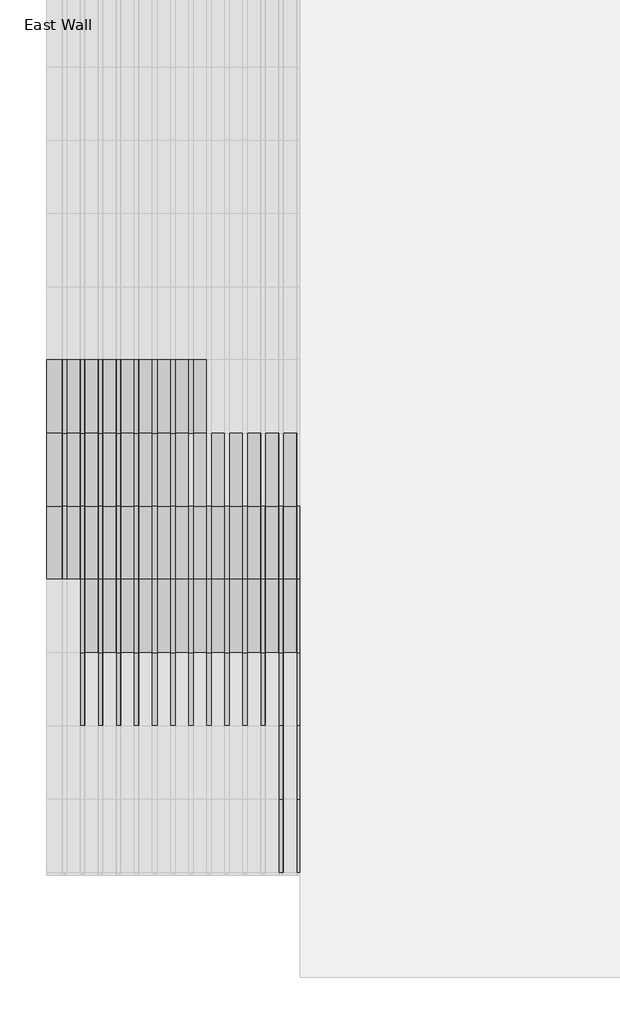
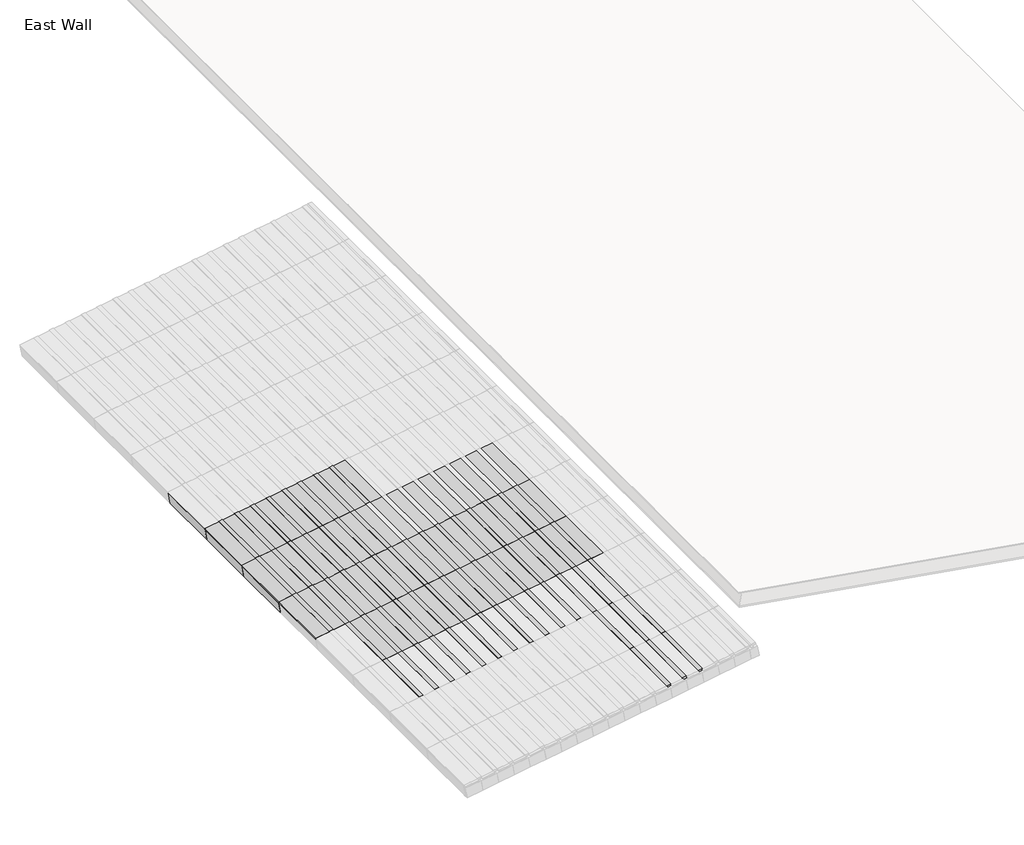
# One storey, part 2 of 5: 67 members, 55 plates.
"""IFC4 building model written with IfcOpenShell, lengths in millimetres."""

from ifc_helpers import new_model, si_unit, origin, place, context, project, spatial, transform, mapped, element, save
from components import rectangular_mullion_fascia_9a07afea, rectangular_mullion_wood_slats_095afc73, system_panel_empty_9ec88690, system_panel_empty_25c6223c

model = new_model("IFC4")

# Units and contexts
model_context = context("Model", 3, world=origin())
ifc_project = project(units=[si_unit("LENGTHUNIT", "METRE", prefix="MILLI")], contexts=[model_context])

# Site, building, storey
site = spatial("IfcSite", under=ifc_project)
building = spatial("IfcBuilding", under=site)
storey = spatial("IfcBuildingStorey", under=building, Name="East Wall", Elevation=3657.6)

# Members
placement = place(None, origin())
rectangular_mullion_fascia_shape = rectangular_mullion_fascia_9a07afea(model_context)
element("IfcMember", 1, ObjectType="Rectangular Mullion : Fascia", at=placement, inside=storey, context=model_context, shape_type="MappedRepresentation", body=[
    mapped(rectangular_mullion_fascia_shape, transform((9705.6989802, 7725.4499281, 3044.5915776), x_axis=(-0.9863939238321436, 0.0, -0.16439898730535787), y_axis=(0.16439898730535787, 0.0, -0.9863939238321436), z_axis=(0.0, -1.0, 0.0))),
])
element("IfcMember", 2, ObjectType="Rectangular Mullion : Fascia", at=placement, inside=storey, context=model_context, shape_type="MappedRepresentation", body=[
    mapped(rectangular_mullion_fascia_shape, transform((9705.6989802, 7115.8499281, 3044.5915776), x_axis=(-0.9863939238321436, 0.0, -0.16439898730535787), y_axis=(0.16439898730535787, 0.0, -0.9863939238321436), z_axis=(0.0, -1.0, 0.0))),
])
element("IfcMember", 3, ObjectType="Rectangular Mullion : Fascia", at=placement, inside=storey, context=model_context, shape_type="MappedRepresentation", body=[
    mapped(rectangular_mullion_fascia_shape, transform((9705.6989802, 6506.2499281, 3044.5915776), x_axis=(-0.9863939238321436, 0.0, -0.16439898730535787), y_axis=(0.16439898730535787, 0.0, -0.9863939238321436), z_axis=(0.0, -1.0, 0.0))),
])
rectangular_mullion_wood_slats_shape = rectangular_mullion_wood_slats_095afc73(model_context)
element("IfcMember", 4, ObjectType="Rectangular Mullion : Wood Slats", at=placement, inside=storey, context=model_context, shape_type="MappedRepresentation", body=[
    mapped(rectangular_mullion_wood_slats_shape, transform((9856.0254142, 7725.4499281, 3069.6459833), x_axis=(0.9863939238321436, 0.0, 0.16439898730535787), y_axis=(0.16439898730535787, 0.0, -0.9863939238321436), z_axis=(0.0, 1.0, 0.0))),
])
element("IfcMember", 5, ObjectType="Rectangular Mullion : Wood Slats", at=placement, inside=storey, context=model_context, shape_type="MappedRepresentation", body=[
    mapped(rectangular_mullion_wood_slats_shape, transform((9856.0254142, 7115.8499281, 3069.6459833), x_axis=(0.9863939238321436, 0.0, 0.16439898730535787), y_axis=(0.16439898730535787, 0.0, -0.9863939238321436), z_axis=(0.0, 1.0, 0.0))),
])
element("IfcMember", 6, ObjectType="Rectangular Mullion : Wood Slats", at=placement, inside=storey, context=model_context, shape_type="MappedRepresentation", body=[
    mapped(rectangular_mullion_wood_slats_shape, transform((9856.0254142, 6506.2499281, 3069.6459833), x_axis=(0.9863939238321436, 0.0, 0.16439898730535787), y_axis=(0.16439898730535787, 0.0, -0.9863939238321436), z_axis=(0.0, 1.0, 0.0))),
])
element("IfcMember", 7, ObjectType="Rectangular Mullion : Wood Slats", at=placement, inside=storey, context=model_context, shape_type="MappedRepresentation", body=[
    mapped(rectangular_mullion_wood_slats_shape, transform((10006.3518482, 7725.4499281, 3094.700389), x_axis=(0.9863939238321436, 0.0, 0.16439898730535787), y_axis=(0.16439898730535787, 0.0, -0.9863939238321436), z_axis=(0.0, 1.0, 0.0))),
])
element("IfcMember", 8, ObjectType="Rectangular Mullion : Wood Slats", at=placement, inside=storey, context=model_context, shape_type="MappedRepresentation", body=[
    mapped(rectangular_mullion_wood_slats_shape, transform((10006.3518482, 7115.8499281, 3094.700389), x_axis=(0.9863939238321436, 0.0, 0.16439898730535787), y_axis=(0.16439898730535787, 0.0, -0.9863939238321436), z_axis=(0.0, 1.0, 0.0))),
])
element("IfcMember", 9, ObjectType="Rectangular Mullion : Wood Slats", at=placement, inside=storey, context=model_context, shape_type="MappedRepresentation", body=[
    mapped(rectangular_mullion_wood_slats_shape, transform((10006.3518482, 6506.2499281, 3094.700389), x_axis=(0.9863939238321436, 0.0, 0.16439898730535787), y_axis=(0.16439898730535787, 0.0, -0.9863939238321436), z_axis=(0.0, 1.0, 0.0))),
])
element("IfcMember", 10, ObjectType="Rectangular Mullion : Wood Slats", at=placement, inside=storey, context=model_context, shape_type="MappedRepresentation", body=[
    mapped(rectangular_mullion_wood_slats_shape, transform((10006.3518482, 5896.6499281, 3094.700389), x_axis=(0.9863939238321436, 0.0, 0.16439898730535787), y_axis=(0.16439898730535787, 0.0, -0.9863939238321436), z_axis=(0.0, 1.0, 0.0))),
])
element("IfcMember", 11, ObjectType="Rectangular Mullion : Wood Slats", at=placement, inside=storey, context=model_context, shape_type="MappedRepresentation", body=[
    mapped(rectangular_mullion_wood_slats_shape, transform((10006.3518482, 5287.0499281, 3094.700389), x_axis=(0.9863939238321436, 0.0, 0.16439898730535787), y_axis=(0.16439898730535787, 0.0, -0.9863939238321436), z_axis=(0.0, 1.0, 0.0))),
])
element("IfcMember", 12, ObjectType="Rectangular Mullion : Wood Slats", at=placement, inside=storey, context=model_context, shape_type="MappedRepresentation", body=[
    mapped(rectangular_mullion_wood_slats_shape, transform((10156.6782822, 7725.4499281, 3119.7547946), x_axis=(0.9863939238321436, 0.0, 0.16439898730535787), y_axis=(0.16439898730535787, 0.0, -0.9863939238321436), z_axis=(0.0, 1.0, 0.0))),
])
element("IfcMember", 13, ObjectType="Rectangular Mullion : Wood Slats", at=placement, inside=storey, context=model_context, shape_type="MappedRepresentation", body=[
    mapped(rectangular_mullion_wood_slats_shape, transform((10156.6782822, 7115.8499281, 3119.7547946), x_axis=(0.9863939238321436, 0.0, 0.16439898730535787), y_axis=(0.16439898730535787, 0.0, -0.9863939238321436), z_axis=(0.0, 1.0, 0.0))),
])
element("IfcMember", 14, ObjectType="Rectangular Mullion : Wood Slats", at=placement, inside=storey, context=model_context, shape_type="MappedRepresentation", body=[
    mapped(rectangular_mullion_wood_slats_shape, transform((10156.6782822, 6506.2499281, 3119.7547946), x_axis=(0.9863939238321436, 0.0, 0.16439898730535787), y_axis=(0.16439898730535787, 0.0, -0.9863939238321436), z_axis=(0.0, 1.0, 0.0))),
])
element("IfcMember", 15, ObjectType="Rectangular Mullion : Wood Slats", at=placement, inside=storey, context=model_context, shape_type="MappedRepresentation", body=[
    mapped(rectangular_mullion_wood_slats_shape, transform((10156.6782822, 5896.6499281, 3119.7547946), x_axis=(0.9863939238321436, 0.0, 0.16439898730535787), y_axis=(0.16439898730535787, 0.0, -0.9863939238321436), z_axis=(0.0, 1.0, 0.0))),
])
element("IfcMember", 16, ObjectType="Rectangular Mullion : Wood Slats", at=placement, inside=storey, context=model_context, shape_type="MappedRepresentation", body=[
    mapped(rectangular_mullion_wood_slats_shape, transform((10156.6782822, 5287.0499281, 3119.7547946), x_axis=(0.9863939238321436, 0.0, 0.16439898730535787), y_axis=(0.16439898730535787, 0.0, -0.9863939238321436), z_axis=(0.0, 1.0, 0.0))),
])
element("IfcMember", 17, ObjectType="Rectangular Mullion : Wood Slats", at=placement, inside=storey, context=model_context, shape_type="MappedRepresentation", body=[
    mapped(rectangular_mullion_wood_slats_shape, transform((10307.0047162, 7725.4499281, 3144.8092003), x_axis=(0.9863939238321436, 0.0, 0.16439898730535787), y_axis=(0.16439898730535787, 0.0, -0.9863939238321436), z_axis=(0.0, 1.0, 0.0))),
])
element("IfcMember", 18, ObjectType="Rectangular Mullion : Wood Slats", at=placement, inside=storey, context=model_context, shape_type="MappedRepresentation", body=[
    mapped(rectangular_mullion_wood_slats_shape, transform((10307.0047162, 7115.8499281, 3144.8092003), x_axis=(0.9863939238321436, 0.0, 0.16439898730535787), y_axis=(0.16439898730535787, 0.0, -0.9863939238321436), z_axis=(0.0, 1.0, 0.0))),
])
element("IfcMember", 19, ObjectType="Rectangular Mullion : Wood Slats", at=placement, inside=storey, context=model_context, shape_type="MappedRepresentation", body=[
    mapped(rectangular_mullion_wood_slats_shape, transform((10307.0047162, 6506.2499281, 3144.8092003), x_axis=(0.9863939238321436, 0.0, 0.16439898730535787), y_axis=(0.16439898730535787, 0.0, -0.9863939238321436), z_axis=(0.0, 1.0, 0.0))),
])
element("IfcMember", 20, ObjectType="Rectangular Mullion : Wood Slats", at=placement, inside=storey, context=model_context, shape_type="MappedRepresentation", body=[
    mapped(rectangular_mullion_wood_slats_shape, transform((10307.0047162, 5896.6499281, 3144.8092003), x_axis=(0.9863939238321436, 0.0, 0.16439898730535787), y_axis=(0.16439898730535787, 0.0, -0.9863939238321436), z_axis=(0.0, 1.0, 0.0))),
])
element("IfcMember", 21, ObjectType="Rectangular Mullion : Wood Slats", at=placement, inside=storey, context=model_context, shape_type="MappedRepresentation", body=[
    mapped(rectangular_mullion_wood_slats_shape, transform((10307.0047162, 5287.0499281, 3144.8092003), x_axis=(0.9863939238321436, 0.0, 0.16439898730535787), y_axis=(0.16439898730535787, 0.0, -0.9863939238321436), z_axis=(0.0, 1.0, 0.0))),
])
element("IfcMember", 22, ObjectType="Rectangular Mullion : Wood Slats", at=placement, inside=storey, context=model_context, shape_type="MappedRepresentation", body=[
    mapped(rectangular_mullion_wood_slats_shape, transform((10457.3311502, 7725.4499281, 3169.863606), x_axis=(0.9863939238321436, 0.0, 0.16439898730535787), y_axis=(0.16439898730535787, 0.0, -0.9863939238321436), z_axis=(0.0, 1.0, 0.0))),
])
element("IfcMember", 23, ObjectType="Rectangular Mullion : Wood Slats", at=placement, inside=storey, context=model_context, shape_type="MappedRepresentation", body=[
    mapped(rectangular_mullion_wood_slats_shape, transform((10457.3311502, 7115.8499281, 3169.863606), x_axis=(0.9863939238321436, 0.0, 0.16439898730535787), y_axis=(0.16439898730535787, 0.0, -0.9863939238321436), z_axis=(0.0, 1.0, 0.0))),
])
element("IfcMember", 24, ObjectType="Rectangular Mullion : Wood Slats", at=placement, inside=storey, context=model_context, shape_type="MappedRepresentation", body=[
    mapped(rectangular_mullion_wood_slats_shape, transform((10457.3311502, 6506.2499281, 3169.863606), x_axis=(0.9863939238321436, 0.0, 0.16439898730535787), y_axis=(0.16439898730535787, 0.0, -0.9863939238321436), z_axis=(0.0, 1.0, 0.0))),
])
element("IfcMember", 25, ObjectType="Rectangular Mullion : Wood Slats", at=placement, inside=storey, context=model_context, shape_type="MappedRepresentation", body=[
    mapped(rectangular_mullion_wood_slats_shape, transform((10457.3311502, 5896.6499281, 3169.863606), x_axis=(0.9863939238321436, 0.0, 0.16439898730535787), y_axis=(0.16439898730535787, 0.0, -0.9863939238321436), z_axis=(0.0, 1.0, 0.0))),
])
element("IfcMember", 26, ObjectType="Rectangular Mullion : Wood Slats", at=placement, inside=storey, context=model_context, shape_type="MappedRepresentation", body=[
    mapped(rectangular_mullion_wood_slats_shape, transform((10457.3311502, 5287.0499281, 3169.863606), x_axis=(0.9863939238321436, 0.0, 0.16439898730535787), y_axis=(0.16439898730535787, 0.0, -0.9863939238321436), z_axis=(0.0, 1.0, 0.0))),
])
element("IfcMember", 27, ObjectType="Rectangular Mullion : Wood Slats", at=placement, inside=storey, context=model_context, shape_type="MappedRepresentation", body=[
    mapped(rectangular_mullion_wood_slats_shape, transform((10607.6575842, 7725.4499281, 3194.9180116), x_axis=(0.9863939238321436, 0.0, 0.16439898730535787), y_axis=(0.16439898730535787, 0.0, -0.9863939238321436), z_axis=(0.0, 1.0, 0.0))),
])
element("IfcMember", 28, ObjectType="Rectangular Mullion : Wood Slats", at=placement, inside=storey, context=model_context, shape_type="MappedRepresentation", body=[
    mapped(rectangular_mullion_wood_slats_shape, transform((10607.6575842, 7115.8499281, 3194.9180116), x_axis=(0.9863939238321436, 0.0, 0.16439898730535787), y_axis=(0.16439898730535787, 0.0, -0.9863939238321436), z_axis=(0.0, 1.0, 0.0))),
])
element("IfcMember", 29, ObjectType="Rectangular Mullion : Wood Slats", at=placement, inside=storey, context=model_context, shape_type="MappedRepresentation", body=[
    mapped(rectangular_mullion_wood_slats_shape, transform((10607.6575842, 6506.2499281, 3194.9180116), x_axis=(0.9863939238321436, 0.0, 0.16439898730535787), y_axis=(0.16439898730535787, 0.0, -0.9863939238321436), z_axis=(0.0, 1.0, 0.0))),
])
element("IfcMember", 30, ObjectType="Rectangular Mullion : Wood Slats", at=placement, inside=storey, context=model_context, shape_type="MappedRepresentation", body=[
    mapped(rectangular_mullion_wood_slats_shape, transform((10607.6575842, 5896.6499281, 3194.9180116), x_axis=(0.9863939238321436, 0.0, 0.16439898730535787), y_axis=(0.16439898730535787, 0.0, -0.9863939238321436), z_axis=(0.0, 1.0, 0.0))),
])
element("IfcMember", 31, ObjectType="Rectangular Mullion : Wood Slats", at=placement, inside=storey, context=model_context, shape_type="MappedRepresentation", body=[
    mapped(rectangular_mullion_wood_slats_shape, transform((10607.6575842, 5287.0499281, 3194.9180116), x_axis=(0.9863939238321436, 0.0, 0.16439898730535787), y_axis=(0.16439898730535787, 0.0, -0.9863939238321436), z_axis=(0.0, 1.0, 0.0))),
])
element("IfcMember", 32, ObjectType="Rectangular Mullion : Wood Slats", at=placement, inside=storey, context=model_context, shape_type="MappedRepresentation", body=[
    mapped(rectangular_mullion_wood_slats_shape, transform((10757.9840182, 7725.4499281, 3219.9724173), x_axis=(0.9863939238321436, 0.0, 0.16439898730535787), y_axis=(0.16439898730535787, 0.0, -0.9863939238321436), z_axis=(0.0, 1.0, 0.0))),
])
element("IfcMember", 33, ObjectType="Rectangular Mullion : Wood Slats", at=placement, inside=storey, context=model_context, shape_type="MappedRepresentation", body=[
    mapped(rectangular_mullion_wood_slats_shape, transform((10757.9840182, 7115.8499281, 3219.9724173), x_axis=(0.9863939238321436, 0.0, 0.16439898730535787), y_axis=(0.16439898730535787, 0.0, -0.9863939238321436), z_axis=(0.0, 1.0, 0.0))),
])
element("IfcMember", 34, ObjectType="Rectangular Mullion : Wood Slats", at=placement, inside=storey, context=model_context, shape_type="MappedRepresentation", body=[
    mapped(rectangular_mullion_wood_slats_shape, transform((10757.9840182, 6506.2499281, 3219.9724173), x_axis=(0.9863939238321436, 0.0, 0.16439898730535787), y_axis=(0.16439898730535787, 0.0, -0.9863939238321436), z_axis=(0.0, 1.0, 0.0))),
])
element("IfcMember", 35, ObjectType="Rectangular Mullion : Wood Slats", at=placement, inside=storey, context=model_context, shape_type="MappedRepresentation", body=[
    mapped(rectangular_mullion_wood_slats_shape, transform((10757.9840182, 5896.6499281, 3219.9724173), x_axis=(0.9863939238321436, 0.0, 0.16439898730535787), y_axis=(0.16439898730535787, 0.0, -0.9863939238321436), z_axis=(0.0, 1.0, 0.0))),
])
element("IfcMember", 36, ObjectType="Rectangular Mullion : Wood Slats", at=placement, inside=storey, context=model_context, shape_type="MappedRepresentation", body=[
    mapped(rectangular_mullion_wood_slats_shape, transform((10757.9840182, 5287.0499281, 3219.9724173), x_axis=(0.9863939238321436, 0.0, 0.16439898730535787), y_axis=(0.16439898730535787, 0.0, -0.9863939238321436), z_axis=(0.0, 1.0, 0.0))),
])
element("IfcMember", 37, ObjectType="Rectangular Mullion : Wood Slats", at=placement, inside=storey, context=model_context, shape_type="MappedRepresentation", body=[
    mapped(rectangular_mullion_wood_slats_shape, transform((10908.3104522, 7725.4499281, 3245.026823), x_axis=(0.9863939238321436, 0.0, 0.16439898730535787), y_axis=(0.16439898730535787, 0.0, -0.9863939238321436), z_axis=(0.0, 1.0, 0.0))),
])
element("IfcMember", 38, ObjectType="Rectangular Mullion : Wood Slats", at=placement, inside=storey, context=model_context, shape_type="MappedRepresentation", body=[
    mapped(rectangular_mullion_wood_slats_shape, transform((10908.3104522, 6506.2499281, 3245.026823), x_axis=(0.9863939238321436, 0.0, 0.16439898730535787), y_axis=(0.16439898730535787, 0.0, -0.9863939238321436), z_axis=(0.0, 1.0, 0.0))),
])
element("IfcMember", 39, ObjectType="Rectangular Mullion : Wood Slats", at=placement, inside=storey, context=model_context, shape_type="MappedRepresentation", body=[
    mapped(rectangular_mullion_wood_slats_shape, transform((10908.3104522, 5896.6499281, 3245.026823), x_axis=(0.9863939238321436, 0.0, 0.16439898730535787), y_axis=(0.16439898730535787, 0.0, -0.9863939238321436), z_axis=(0.0, 1.0, 0.0))),
])
element("IfcMember", 40, ObjectType="Rectangular Mullion : Wood Slats", at=placement, inside=storey, context=model_context, shape_type="MappedRepresentation", body=[
    mapped(rectangular_mullion_wood_slats_shape, transform((10908.3104522, 5287.0499281, 3245.026823), x_axis=(0.9863939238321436, 0.0, 0.16439898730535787), y_axis=(0.16439898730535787, 0.0, -0.9863939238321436), z_axis=(0.0, 1.0, 0.0))),
])
element("IfcMember", 41, ObjectType="Rectangular Mullion : Wood Slats", at=placement, inside=storey, context=model_context, shape_type="MappedRepresentation", body=[
    mapped(rectangular_mullion_wood_slats_shape, transform((11058.6368862, 6506.2499281, 3270.0812286), x_axis=(0.9863939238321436, 0.0, 0.16439898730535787), y_axis=(0.16439898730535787, 0.0, -0.9863939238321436), z_axis=(0.0, 1.0, 0.0))),
])
element("IfcMember", 42, ObjectType="Rectangular Mullion : Wood Slats", at=placement, inside=storey, context=model_context, shape_type="MappedRepresentation", body=[
    mapped(rectangular_mullion_wood_slats_shape, transform((11058.6368862, 5896.6499281, 3270.0812286), x_axis=(0.9863939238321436, 0.0, 0.16439898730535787), y_axis=(0.16439898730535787, 0.0, -0.9863939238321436), z_axis=(0.0, 1.0, 0.0))),
])
element("IfcMember", 43, ObjectType="Rectangular Mullion : Wood Slats", at=placement, inside=storey, context=model_context, shape_type="MappedRepresentation", body=[
    mapped(rectangular_mullion_wood_slats_shape, transform((11058.6368862, 5287.0499281, 3270.0812286), x_axis=(0.9863939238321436, 0.0, 0.16439898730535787), y_axis=(0.16439898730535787, 0.0, -0.9863939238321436), z_axis=(0.0, 1.0, 0.0))),
])
element("IfcMember", 44, ObjectType="Rectangular Mullion : Wood Slats", at=placement, inside=storey, context=model_context, shape_type="MappedRepresentation", body=[
    mapped(rectangular_mullion_wood_slats_shape, transform((11208.9633201, 6506.2499281, 3295.1356343), x_axis=(0.9863939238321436, 0.0, 0.16439898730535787), y_axis=(0.16439898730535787, 0.0, -0.9863939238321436), z_axis=(0.0, 1.0, 0.0))),
])
element("IfcMember", 45, ObjectType="Rectangular Mullion : Wood Slats", at=placement, inside=storey, context=model_context, shape_type="MappedRepresentation", body=[
    mapped(rectangular_mullion_wood_slats_shape, transform((11208.9633201, 5896.6499281, 3295.1356343), x_axis=(0.9863939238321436, 0.0, 0.16439898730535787), y_axis=(0.16439898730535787, 0.0, -0.9863939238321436), z_axis=(0.0, 1.0, 0.0))),
])
element("IfcMember", 46, ObjectType="Rectangular Mullion : Wood Slats", at=placement, inside=storey, context=model_context, shape_type="MappedRepresentation", body=[
    mapped(rectangular_mullion_wood_slats_shape, transform((11208.9633201, 5287.0499281, 3295.1356343), x_axis=(0.9863939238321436, 0.0, 0.16439898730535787), y_axis=(0.16439898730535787, 0.0, -0.9863939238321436), z_axis=(0.0, 1.0, 0.0))),
])
element("IfcMember", 47, ObjectType="Rectangular Mullion : Wood Slats", at=placement, inside=storey, context=model_context, shape_type="MappedRepresentation", body=[
    mapped(rectangular_mullion_wood_slats_shape, transform((11359.2897541, 6506.2499281, 3320.19004), x_axis=(0.9863939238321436, 0.0, 0.16439898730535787), y_axis=(0.16439898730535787, 0.0, -0.9863939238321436), z_axis=(0.0, 1.0, 0.0))),
])
element("IfcMember", 48, ObjectType="Rectangular Mullion : Wood Slats", at=placement, inside=storey, context=model_context, shape_type="MappedRepresentation", body=[
    mapped(rectangular_mullion_wood_slats_shape, transform((11359.2897541, 5896.6499281, 3320.19004), x_axis=(0.9863939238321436, 0.0, 0.16439898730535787), y_axis=(0.16439898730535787, 0.0, -0.9863939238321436), z_axis=(0.0, 1.0, 0.0))),
])
element("IfcMember", 49, ObjectType="Rectangular Mullion : Wood Slats", at=placement, inside=storey, context=model_context, shape_type="MappedRepresentation", body=[
    mapped(rectangular_mullion_wood_slats_shape, transform((11359.2897541, 5287.0499281, 3320.19004), x_axis=(0.9863939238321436, 0.0, 0.16439898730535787), y_axis=(0.16439898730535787, 0.0, -0.9863939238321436), z_axis=(0.0, 1.0, 0.0))),
])
element("IfcMember", 50, ObjectType="Rectangular Mullion : Wood Slats", at=placement, inside=storey, context=model_context, shape_type="MappedRepresentation", body=[
    mapped(rectangular_mullion_wood_slats_shape, transform((11509.6161881, 6506.2499281, 3345.2444456), x_axis=(0.9863939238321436, 0.0, 0.16439898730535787), y_axis=(0.16439898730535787, 0.0, -0.9863939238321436), z_axis=(0.0, 1.0, 0.0))),
])
element("IfcMember", 51, ObjectType="Rectangular Mullion : Wood Slats", at=placement, inside=storey, context=model_context, shape_type="MappedRepresentation", body=[
    mapped(rectangular_mullion_wood_slats_shape, transform((11509.6161881, 5896.6499281, 3345.2444456), x_axis=(0.9863939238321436, 0.0, 0.16439898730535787), y_axis=(0.16439898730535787, 0.0, -0.9863939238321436), z_axis=(0.0, 1.0, 0.0))),
])
element("IfcMember", 52, ObjectType="Rectangular Mullion : Wood Slats", at=placement, inside=storey, context=model_context, shape_type="MappedRepresentation", body=[
    mapped(rectangular_mullion_wood_slats_shape, transform((11509.6161881, 5287.0499281, 3345.2444456), x_axis=(0.9863939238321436, 0.0, 0.16439898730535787), y_axis=(0.16439898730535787, 0.0, -0.9863939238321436), z_axis=(0.0, 1.0, 0.0))),
])
element("IfcMember", 53, ObjectType="Rectangular Mullion : Wood Slats", at=placement, inside=storey, context=model_context, shape_type="MappedRepresentation", body=[
    mapped(rectangular_mullion_wood_slats_shape, transform((11659.9426221, 6506.2499281, 3370.2988513), x_axis=(0.9863939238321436, 0.0, 0.16439898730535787), y_axis=(0.16439898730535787, 0.0, -0.9863939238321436), z_axis=(0.0, 1.0, 0.0))),
])
element("IfcMember", 54, ObjectType="Rectangular Mullion : Wood Slats", at=placement, inside=storey, context=model_context, shape_type="MappedRepresentation", body=[
    mapped(rectangular_mullion_wood_slats_shape, transform((11659.9426221, 5896.6499281, 3370.2988513), x_axis=(0.9863939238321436, 0.0, 0.16439898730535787), y_axis=(0.16439898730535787, 0.0, -0.9863939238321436), z_axis=(0.0, 1.0, 0.0))),
])
element("IfcMember", 55, ObjectType="Rectangular Mullion : Wood Slats", at=placement, inside=storey, context=model_context, shape_type="MappedRepresentation", body=[
    mapped(rectangular_mullion_wood_slats_shape, transform((11659.9426221, 5287.0499281, 3370.2988513), x_axis=(0.9863939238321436, 0.0, 0.16439898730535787), y_axis=(0.16439898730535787, 0.0, -0.9863939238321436), z_axis=(0.0, 1.0, 0.0))),
])
element("IfcMember", 56, ObjectType="Rectangular Mullion : Wood Slats", at=placement, inside=storey, context=model_context, shape_type="MappedRepresentation", body=[
    mapped(rectangular_mullion_wood_slats_shape, transform((11659.9426221, 4677.4499281, 3370.2988513), x_axis=(0.9863939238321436, 0.0, 0.16439898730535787), y_axis=(0.16439898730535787, 0.0, -0.9863939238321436), z_axis=(0.0, 1.0, 0.0))),
])
element("IfcMember", 57, ObjectType="Rectangular Mullion : Wood Slats", at=placement, inside=storey, context=model_context, shape_type="MappedRepresentation", body=[
    mapped(rectangular_mullion_wood_slats_shape, transform((11659.9426221, 4067.8499281, 3370.2988513), x_axis=(0.9863939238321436, 0.0, 0.16439898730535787), y_axis=(0.16439898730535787, 0.0, -0.9863939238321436), z_axis=(0.0, 1.0, 0.0))),
])
element("IfcMember", 58, ObjectType="Rectangular Mullion : Wood Slats", at=placement, inside=storey, context=model_context, shape_type="MappedRepresentation", body=[
    mapped(rectangular_mullion_wood_slats_shape, transform((11810.2690561, 6506.2499281, 3395.353257), x_axis=(0.9863939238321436, 0.0, 0.16439898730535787), y_axis=(0.16439898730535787, 0.0, -0.9863939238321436), z_axis=(0.0, 1.0, 0.0))),
])
element("IfcMember", 59, ObjectType="Rectangular Mullion : Wood Slats", at=placement, inside=storey, context=model_context, shape_type="MappedRepresentation", body=[
    mapped(rectangular_mullion_wood_slats_shape, transform((11810.2690561, 5896.6499281, 3395.353257), x_axis=(0.9863939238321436, 0.0, 0.16439898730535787), y_axis=(0.16439898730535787, 0.0, -0.9863939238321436), z_axis=(0.0, 1.0, 0.0))),
])
element("IfcMember", 60, ObjectType="Rectangular Mullion : Wood Slats", at=placement, inside=storey, context=model_context, shape_type="MappedRepresentation", body=[
    mapped(rectangular_mullion_wood_slats_shape, transform((11810.2690561, 5287.0499281, 3395.353257), x_axis=(0.9863939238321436, 0.0, 0.16439898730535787), y_axis=(0.16439898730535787, 0.0, -0.9863939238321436), z_axis=(0.0, 1.0, 0.0))),
])
element("IfcMember", 61, ObjectType="Rectangular Mullion : Wood Slats", at=placement, inside=storey, context=model_context, shape_type="MappedRepresentation", body=[
    mapped(rectangular_mullion_wood_slats_shape, transform((11810.2690561, 4677.4499281, 3395.353257), x_axis=(0.9863939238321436, 0.0, 0.16439898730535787), y_axis=(0.16439898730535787, 0.0, -0.9863939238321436), z_axis=(0.0, 1.0, 0.0))),
])
element("IfcMember", 62, ObjectType="Rectangular Mullion : Wood Slats", at=placement, inside=storey, context=model_context, shape_type="MappedRepresentation", body=[
    mapped(rectangular_mullion_wood_slats_shape, transform((11810.2690561, 4067.8499281, 3395.353257), x_axis=(0.9863939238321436, 0.0, 0.16439898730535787), y_axis=(0.16439898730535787, 0.0, -0.9863939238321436), z_axis=(0.0, 1.0, 0.0))),
])
element("IfcMember", 63, ObjectType="Rectangular Mullion : Wood Slats", at=placement, inside=storey, context=model_context, shape_type="MappedRepresentation", body=[
    mapped(rectangular_mullion_wood_slats_shape, transform((11960.5954901, 6506.2499281, 3420.4076626), x_axis=(0.9863939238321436, 0.0, 0.16439898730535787), y_axis=(0.16439898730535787, 0.0, -0.9863939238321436), z_axis=(0.0, 1.0, 0.0))),
])
element("IfcMember", 64, ObjectType="Rectangular Mullion : Wood Slats", at=placement, inside=storey, context=model_context, shape_type="MappedRepresentation", body=[
    mapped(rectangular_mullion_wood_slats_shape, transform((11960.5954901, 5896.6499281, 3420.4076626), x_axis=(0.9863939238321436, 0.0, 0.16439898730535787), y_axis=(0.16439898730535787, 0.0, -0.9863939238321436), z_axis=(0.0, 1.0, 0.0))),
])
element("IfcMember", 65, ObjectType="Rectangular Mullion : Wood Slats", at=placement, inside=storey, context=model_context, shape_type="MappedRepresentation", body=[
    mapped(rectangular_mullion_wood_slats_shape, transform((11960.5954901, 5287.0499281, 3420.4076626), x_axis=(0.9863939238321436, 0.0, 0.16439898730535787), y_axis=(0.16439898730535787, 0.0, -0.9863939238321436), z_axis=(0.0, 1.0, 0.0))),
])
element("IfcMember", 66, ObjectType="Rectangular Mullion : Wood Slats", at=placement, inside=storey, context=model_context, shape_type="MappedRepresentation", body=[
    mapped(rectangular_mullion_wood_slats_shape, transform((11960.5954901, 4677.4499281, 3420.4076626), x_axis=(0.9863939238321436, 0.0, 0.16439898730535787), y_axis=(0.16439898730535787, 0.0, -0.9863939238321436), z_axis=(0.0, 1.0, 0.0))),
])
element("IfcMember", 67, ObjectType="Rectangular Mullion : Wood Slats", at=placement, inside=storey, context=model_context, shape_type="MappedRepresentation", body=[
    mapped(rectangular_mullion_wood_slats_shape, transform((11960.5954901, 4067.8499281, 3420.4076626), x_axis=(0.9863939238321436, 0.0, 0.16439898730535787), y_axis=(0.16439898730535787, 0.0, -0.9863939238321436), z_axis=(0.0, 1.0, 0.0))),
])

# Plates
system_panel_empty_shape = system_panel_empty_9ec88690(model_context)
element("IfcPlate", 68, ObjectType="System Panel : Empty", at=placement, inside=storey, context=model_context, shape_type="MappedRepresentation", body=[
    mapped(system_panel_empty_shape, transform((9874.8162185, 7420.6499281, 3072.777784), x_axis=(0.0, -1.0, 0.0), y_axis=(0.16439898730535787, 0.0, -0.9863939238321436), z_axis=(0.9863939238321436, 0.0, 0.16439898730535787))),
])
element("IfcPlate", 69, ObjectType="System Panel : Empty", at=placement, inside=storey, context=model_context, shape_type="MappedRepresentation", body=[
    mapped(system_panel_empty_shape, transform((9874.8162185, 6811.0499281, 3072.777784), x_axis=(0.0, -1.0, 0.0), y_axis=(0.16439898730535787, 0.0, -0.9863939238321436), z_axis=(0.9863939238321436, 0.0, 0.16439898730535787))),
])
element("IfcPlate", 70, ObjectType="System Panel : Empty", at=placement, inside=storey, context=model_context, shape_type="MappedRepresentation", body=[
    mapped(system_panel_empty_shape, transform((9874.8162185, 6201.4499281, 3072.777784), x_axis=(0.0, -1.0, 0.0), y_axis=(0.16439898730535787, 0.0, -0.9863939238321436), z_axis=(0.9863939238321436, 0.0, 0.16439898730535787))),
])
element("IfcPlate", 71, ObjectType="System Panel : Empty", at=placement, inside=storey, context=model_context, shape_type="MappedRepresentation", body=[
    mapped(system_panel_empty_shape, transform((10025.1426525, 7420.6499281, 3097.8321897), x_axis=(0.0, -1.0, 0.0), y_axis=(0.16439898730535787, 0.0, -0.9863939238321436), z_axis=(0.9863939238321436, 0.0, 0.16439898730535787))),
])
element("IfcPlate", 72, ObjectType="System Panel : Empty", at=placement, inside=storey, context=model_context, shape_type="MappedRepresentation", body=[
    mapped(system_panel_empty_shape, transform((10025.1426525, 6811.0499281, 3097.8321897), x_axis=(0.0, -1.0, 0.0), y_axis=(0.16439898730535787, 0.0, -0.9863939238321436), z_axis=(0.9863939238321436, 0.0, 0.16439898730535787))),
])
element("IfcPlate", 73, ObjectType="System Panel : Empty", at=placement, inside=storey, context=model_context, shape_type="MappedRepresentation", body=[
    mapped(system_panel_empty_shape, transform((10025.1426525, 6201.4499281, 3097.8321897), x_axis=(0.0, -1.0, 0.0), y_axis=(0.16439898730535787, 0.0, -0.9863939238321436), z_axis=(0.9863939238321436, 0.0, 0.16439898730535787))),
])
element("IfcPlate", 74, ObjectType="System Panel : Empty", at=placement, inside=storey, context=model_context, shape_type="MappedRepresentation", body=[
    mapped(system_panel_empty_shape, transform((10025.1426525, 5591.8499281, 3097.8321897), x_axis=(0.0, -1.0, 0.0), y_axis=(0.16439898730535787, 0.0, -0.9863939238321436), z_axis=(0.9863939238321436, 0.0, 0.16439898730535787))),
])
element("IfcPlate", 75, ObjectType="System Panel : Empty", at=placement, inside=storey, context=model_context, shape_type="MappedRepresentation", body=[
    mapped(system_panel_empty_shape, transform((10175.4690865, 7420.6499281, 3122.8865954), x_axis=(0.0, -1.0, 0.0), y_axis=(0.16439898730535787, 0.0, -0.9863939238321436), z_axis=(0.9863939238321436, 0.0, 0.16439898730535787))),
])
element("IfcPlate", 76, ObjectType="System Panel : Empty", at=placement, inside=storey, context=model_context, shape_type="MappedRepresentation", body=[
    mapped(system_panel_empty_shape, transform((10175.4690865, 6811.0499281, 3122.8865954), x_axis=(0.0, -1.0, 0.0), y_axis=(0.16439898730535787, 0.0, -0.9863939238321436), z_axis=(0.9863939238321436, 0.0, 0.16439898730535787))),
])
element("IfcPlate", 77, ObjectType="System Panel : Empty", at=placement, inside=storey, context=model_context, shape_type="MappedRepresentation", body=[
    mapped(system_panel_empty_shape, transform((10175.4690865, 6201.4499281, 3122.8865954), x_axis=(0.0, -1.0, 0.0), y_axis=(0.16439898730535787, 0.0, -0.9863939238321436), z_axis=(0.9863939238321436, 0.0, 0.16439898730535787))),
])
element("IfcPlate", 78, ObjectType="System Panel : Empty", at=placement, inside=storey, context=model_context, shape_type="MappedRepresentation", body=[
    mapped(system_panel_empty_shape, transform((10175.4690865, 5591.8499281, 3122.8865954), x_axis=(0.0, -1.0, 0.0), y_axis=(0.16439898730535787, 0.0, -0.9863939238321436), z_axis=(0.9863939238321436, 0.0, 0.16439898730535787))),
])
element("IfcPlate", 79, ObjectType="System Panel : Empty", at=placement, inside=storey, context=model_context, shape_type="MappedRepresentation", body=[
    mapped(system_panel_empty_shape, transform((10325.7955204, 7420.6499281, 3147.941001), x_axis=(0.0, -1.0, 0.0), y_axis=(0.16439898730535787, 0.0, -0.9863939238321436), z_axis=(0.9863939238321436, 0.0, 0.16439898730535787))),
])
element("IfcPlate", 80, ObjectType="System Panel : Empty", at=placement, inside=storey, context=model_context, shape_type="MappedRepresentation", body=[
    mapped(system_panel_empty_shape, transform((10325.7955204, 6811.0499281, 3147.941001), x_axis=(0.0, -1.0, 0.0), y_axis=(0.16439898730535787, 0.0, -0.9863939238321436), z_axis=(0.9863939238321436, 0.0, 0.16439898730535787))),
])
element("IfcPlate", 81, ObjectType="System Panel : Empty", at=placement, inside=storey, context=model_context, shape_type="MappedRepresentation", body=[
    mapped(system_panel_empty_shape, transform((10325.7955204, 6201.4499281, 3147.941001), x_axis=(0.0, -1.0, 0.0), y_axis=(0.16439898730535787, 0.0, -0.9863939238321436), z_axis=(0.9863939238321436, 0.0, 0.16439898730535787))),
])
element("IfcPlate", 82, ObjectType="System Panel : Empty", at=placement, inside=storey, context=model_context, shape_type="MappedRepresentation", body=[
    mapped(system_panel_empty_shape, transform((10325.7955204, 5591.8499281, 3147.941001), x_axis=(0.0, -1.0, 0.0), y_axis=(0.16439898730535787, 0.0, -0.9863939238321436), z_axis=(0.9863939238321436, 0.0, 0.16439898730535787))),
])
element("IfcPlate", 83, ObjectType="System Panel : Empty", at=placement, inside=storey, context=model_context, shape_type="MappedRepresentation", body=[
    mapped(system_panel_empty_shape, transform((10476.1219544, 7420.6499281, 3172.9954067), x_axis=(0.0, -1.0, 0.0), y_axis=(0.16439898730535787, 0.0, -0.9863939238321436), z_axis=(0.9863939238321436, 0.0, 0.16439898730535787))),
])
element("IfcPlate", 84, ObjectType="System Panel : Empty", at=placement, inside=storey, context=model_context, shape_type="MappedRepresentation", body=[
    mapped(system_panel_empty_shape, transform((10476.1219544, 6811.0499281, 3172.9954067), x_axis=(0.0, -1.0, 0.0), y_axis=(0.16439898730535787, 0.0, -0.9863939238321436), z_axis=(0.9863939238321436, 0.0, 0.16439898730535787))),
])
element("IfcPlate", 85, ObjectType="System Panel : Empty", at=placement, inside=storey, context=model_context, shape_type="MappedRepresentation", body=[
    mapped(system_panel_empty_shape, transform((10476.1219544, 6201.4499281, 3172.9954067), x_axis=(0.0, -1.0, 0.0), y_axis=(0.16439898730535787, 0.0, -0.9863939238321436), z_axis=(0.9863939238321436, 0.0, 0.16439898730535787))),
])
element("IfcPlate", 86, ObjectType="System Panel : Empty", at=placement, inside=storey, context=model_context, shape_type="MappedRepresentation", body=[
    mapped(system_panel_empty_shape, transform((10476.1219544, 5591.8499281, 3172.9954067), x_axis=(0.0, -1.0, 0.0), y_axis=(0.16439898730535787, 0.0, -0.9863939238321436), z_axis=(0.9863939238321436, 0.0, 0.16439898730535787))),
])
element("IfcPlate", 87, ObjectType="System Panel : Empty", at=placement, inside=storey, context=model_context, shape_type="MappedRepresentation", body=[
    mapped(system_panel_empty_shape, transform((10626.4483884, 7420.6499281, 3198.0498123), x_axis=(0.0, -1.0, 0.0), y_axis=(0.16439898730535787, 0.0, -0.9863939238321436), z_axis=(0.9863939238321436, 0.0, 0.16439898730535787))),
])
element("IfcPlate", 88, ObjectType="System Panel : Empty", at=placement, inside=storey, context=model_context, shape_type="MappedRepresentation", body=[
    mapped(system_panel_empty_shape, transform((10626.4483884, 6811.0499281, 3198.0498123), x_axis=(0.0, -1.0, 0.0), y_axis=(0.16439898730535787, 0.0, -0.9863939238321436), z_axis=(0.9863939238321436, 0.0, 0.16439898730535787))),
])
element("IfcPlate", 89, ObjectType="System Panel : Empty", at=placement, inside=storey, context=model_context, shape_type="MappedRepresentation", body=[
    mapped(system_panel_empty_shape, transform((10626.4483884, 6201.4499281, 3198.0498123), x_axis=(0.0, -1.0, 0.0), y_axis=(0.16439898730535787, 0.0, -0.9863939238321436), z_axis=(0.9863939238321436, 0.0, 0.16439898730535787))),
])
element("IfcPlate", 90, ObjectType="System Panel : Empty", at=placement, inside=storey, context=model_context, shape_type="MappedRepresentation", body=[
    mapped(system_panel_empty_shape, transform((10626.4483884, 5591.8499281, 3198.0498123), x_axis=(0.0, -1.0, 0.0), y_axis=(0.16439898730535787, 0.0, -0.9863939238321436), z_axis=(0.9863939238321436, 0.0, 0.16439898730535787))),
])
element("IfcPlate", 91, ObjectType="System Panel : Empty", at=placement, inside=storey, context=model_context, shape_type="MappedRepresentation", body=[
    mapped(system_panel_empty_shape, transform((10776.7748224, 7420.6499281, 3223.104218), x_axis=(0.0, -1.0, 0.0), y_axis=(0.16439898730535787, 0.0, -0.9863939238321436), z_axis=(0.9863939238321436, 0.0, 0.16439898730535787))),
])
element("IfcPlate", 92, ObjectType="System Panel : Empty", at=placement, inside=storey, context=model_context, shape_type="MappedRepresentation", body=[
    mapped(system_panel_empty_shape, transform((10776.7748224, 6811.0499281, 3223.104218), x_axis=(0.0, -1.0, 0.0), y_axis=(0.16439898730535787, 0.0, -0.9863939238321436), z_axis=(0.9863939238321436, 0.0, 0.16439898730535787))),
])
element("IfcPlate", 93, ObjectType="System Panel : Empty", at=placement, inside=storey, context=model_context, shape_type="MappedRepresentation", body=[
    mapped(system_panel_empty_shape, transform((10776.7748224, 6201.4499281, 3223.104218), x_axis=(0.0, -1.0, 0.0), y_axis=(0.16439898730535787, 0.0, -0.9863939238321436), z_axis=(0.9863939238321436, 0.0, 0.16439898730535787))),
])
element("IfcPlate", 94, ObjectType="System Panel : Empty", at=placement, inside=storey, context=model_context, shape_type="MappedRepresentation", body=[
    mapped(system_panel_empty_shape, transform((10776.7748224, 5591.8499281, 3223.104218), x_axis=(0.0, -1.0, 0.0), y_axis=(0.16439898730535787, 0.0, -0.9863939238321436), z_axis=(0.9863939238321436, 0.0, 0.16439898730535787))),
])
element("IfcPlate", 95, ObjectType="System Panel : Empty", at=placement, inside=storey, context=model_context, shape_type="MappedRepresentation", body=[
    mapped(system_panel_empty_shape, transform((10927.1012564, 7420.6499281, 3248.1586237), x_axis=(0.0, -1.0, 0.0), y_axis=(0.16439898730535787, 0.0, -0.9863939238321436), z_axis=(0.9863939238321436, 0.0, 0.16439898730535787))),
])
element("IfcPlate", 96, ObjectType="System Panel : Empty", at=placement, inside=storey, context=model_context, shape_type="MappedRepresentation", body=[
    mapped(system_panel_empty_shape, transform((10927.1012564, 6811.0499281, 3248.1586237), x_axis=(0.0, -1.0, 0.0), y_axis=(0.16439898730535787, 0.0, -0.9863939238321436), z_axis=(0.9863939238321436, 0.0, 0.16439898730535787))),
])
element("IfcPlate", 97, ObjectType="System Panel : Empty", at=placement, inside=storey, context=model_context, shape_type="MappedRepresentation", body=[
    mapped(system_panel_empty_shape, transform((10927.1012564, 6201.4499281, 3248.1586237), x_axis=(0.0, -1.0, 0.0), y_axis=(0.16439898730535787, 0.0, -0.9863939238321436), z_axis=(0.9863939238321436, 0.0, 0.16439898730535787))),
])
element("IfcPlate", 98, ObjectType="System Panel : Empty", at=placement, inside=storey, context=model_context, shape_type="MappedRepresentation", body=[
    mapped(system_panel_empty_shape, transform((10927.1012564, 5591.8499281, 3248.1586237), x_axis=(0.0, -1.0, 0.0), y_axis=(0.16439898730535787, 0.0, -0.9863939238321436), z_axis=(0.9863939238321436, 0.0, 0.16439898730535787))),
])
element("IfcPlate", 99, ObjectType="System Panel : Empty", at=placement, inside=storey, context=model_context, shape_type="MappedRepresentation", body=[
    mapped(system_panel_empty_shape, transform((11077.4276904, 6811.0499281, 3273.2130293), x_axis=(0.0, -1.0, 0.0), y_axis=(0.16439898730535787, 0.0, -0.9863939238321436), z_axis=(0.9863939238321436, 0.0, 0.16439898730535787))),
])
element("IfcPlate", 100, ObjectType="System Panel : Empty", at=placement, inside=storey, context=model_context, shape_type="MappedRepresentation", body=[
    mapped(system_panel_empty_shape, transform((11077.4276904, 6201.4499281, 3273.2130293), x_axis=(0.0, -1.0, 0.0), y_axis=(0.16439898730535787, 0.0, -0.9863939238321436), z_axis=(0.9863939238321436, 0.0, 0.16439898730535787))),
])
element("IfcPlate", 101, ObjectType="System Panel : Empty", at=placement, inside=storey, context=model_context, shape_type="MappedRepresentation", body=[
    mapped(system_panel_empty_shape, transform((11077.4276904, 5591.8499281, 3273.2130293), x_axis=(0.0, -1.0, 0.0), y_axis=(0.16439898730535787, 0.0, -0.9863939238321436), z_axis=(0.9863939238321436, 0.0, 0.16439898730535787))),
])
element("IfcPlate", 102, ObjectType="System Panel : Empty", at=placement, inside=storey, context=model_context, shape_type="MappedRepresentation", body=[
    mapped(system_panel_empty_shape, transform((11227.7541244, 6811.0499281, 3298.267435), x_axis=(0.0, -1.0, 0.0), y_axis=(0.16439898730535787, 0.0, -0.9863939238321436), z_axis=(0.9863939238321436, 0.0, 0.16439898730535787))),
])
element("IfcPlate", 103, ObjectType="System Panel : Empty", at=placement, inside=storey, context=model_context, shape_type="MappedRepresentation", body=[
    mapped(system_panel_empty_shape, transform((11227.7541244, 6201.4499281, 3298.267435), x_axis=(0.0, -1.0, 0.0), y_axis=(0.16439898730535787, 0.0, -0.9863939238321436), z_axis=(0.9863939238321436, 0.0, 0.16439898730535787))),
])
element("IfcPlate", 104, ObjectType="System Panel : Empty", at=placement, inside=storey, context=model_context, shape_type="MappedRepresentation", body=[
    mapped(system_panel_empty_shape, transform((11227.7541244, 5591.8499281, 3298.267435), x_axis=(0.0, -1.0, 0.0), y_axis=(0.16439898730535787, 0.0, -0.9863939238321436), z_axis=(0.9863939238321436, 0.0, 0.16439898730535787))),
])
element("IfcPlate", 105, ObjectType="System Panel : Empty", at=placement, inside=storey, context=model_context, shape_type="MappedRepresentation", body=[
    mapped(system_panel_empty_shape, transform((11378.0805584, 6811.0499281, 3323.3218407), x_axis=(0.0, -1.0, 0.0), y_axis=(0.16439898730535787, 0.0, -0.9863939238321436), z_axis=(0.9863939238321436, 0.0, 0.16439898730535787))),
])
element("IfcPlate", 106, ObjectType="System Panel : Empty", at=placement, inside=storey, context=model_context, shape_type="MappedRepresentation", body=[
    mapped(system_panel_empty_shape, transform((11378.0805584, 6201.4499281, 3323.3218407), x_axis=(0.0, -1.0, 0.0), y_axis=(0.16439898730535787, 0.0, -0.9863939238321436), z_axis=(0.9863939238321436, 0.0, 0.16439898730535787))),
])
element("IfcPlate", 107, ObjectType="System Panel : Empty", at=placement, inside=storey, context=model_context, shape_type="MappedRepresentation", body=[
    mapped(system_panel_empty_shape, transform((11378.0805584, 5591.8499281, 3323.3218407), x_axis=(0.0, -1.0, 0.0), y_axis=(0.16439898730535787, 0.0, -0.9863939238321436), z_axis=(0.9863939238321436, 0.0, 0.16439898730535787))),
])
element("IfcPlate", 108, ObjectType="System Panel : Empty", at=placement, inside=storey, context=model_context, shape_type="MappedRepresentation", body=[
    mapped(system_panel_empty_shape, transform((11528.4069924, 6811.0499281, 3348.3762463), x_axis=(0.0, -1.0, 0.0), y_axis=(0.16439898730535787, 0.0, -0.9863939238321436), z_axis=(0.9863939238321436, 0.0, 0.16439898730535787))),
])
element("IfcPlate", 109, ObjectType="System Panel : Empty", at=placement, inside=storey, context=model_context, shape_type="MappedRepresentation", body=[
    mapped(system_panel_empty_shape, transform((11528.4069924, 6201.4499281, 3348.3762463), x_axis=(0.0, -1.0, 0.0), y_axis=(0.16439898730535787, 0.0, -0.9863939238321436), z_axis=(0.9863939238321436, 0.0, 0.16439898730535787))),
])
element("IfcPlate", 110, ObjectType="System Panel : Empty", at=placement, inside=storey, context=model_context, shape_type="MappedRepresentation", body=[
    mapped(system_panel_empty_shape, transform((11528.4069924, 5591.8499281, 3348.3762463), x_axis=(0.0, -1.0, 0.0), y_axis=(0.16439898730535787, 0.0, -0.9863939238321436), z_axis=(0.9863939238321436, 0.0, 0.16439898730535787))),
])
element("IfcPlate", 111, ObjectType="System Panel : Empty", at=placement, inside=storey, context=model_context, shape_type="MappedRepresentation", body=[
    mapped(system_panel_empty_shape, transform((11678.7334264, 6811.0499281, 3373.430652), x_axis=(0.0, -1.0, 0.0), y_axis=(0.16439898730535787, 0.0, -0.9863939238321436), z_axis=(0.9863939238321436, 0.0, 0.16439898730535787))),
])
element("IfcPlate", 112, ObjectType="System Panel : Empty", at=placement, inside=storey, context=model_context, shape_type="MappedRepresentation", body=[
    mapped(system_panel_empty_shape, transform((11678.7334264, 6201.4499281, 3373.430652), x_axis=(0.0, -1.0, 0.0), y_axis=(0.16439898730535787, 0.0, -0.9863939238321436), z_axis=(0.9863939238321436, 0.0, 0.16439898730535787))),
])
element("IfcPlate", 113, ObjectType="System Panel : Empty", at=placement, inside=storey, context=model_context, shape_type="MappedRepresentation", body=[
    mapped(system_panel_empty_shape, transform((11678.7334264, 5591.8499281, 3373.430652), x_axis=(0.0, -1.0, 0.0), y_axis=(0.16439898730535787, 0.0, -0.9863939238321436), z_axis=(0.9863939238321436, 0.0, 0.16439898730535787))),
])
element("IfcPlate", 114, ObjectType="System Panel : Empty", at=placement, inside=storey, context=model_context, shape_type="MappedRepresentation", body=[
    mapped(system_panel_empty_shape, transform((11829.0598604, 6811.0499281, 3398.4850577), x_axis=(0.0, -1.0, 0.0), y_axis=(0.16439898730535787, 0.0, -0.9863939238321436), z_axis=(0.9863939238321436, 0.0, 0.16439898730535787))),
])
element("IfcPlate", 115, ObjectType="System Panel : Empty", at=placement, inside=storey, context=model_context, shape_type="MappedRepresentation", body=[
    mapped(system_panel_empty_shape, transform((11829.0598604, 6201.4499281, 3398.4850577), x_axis=(0.0, -1.0, 0.0), y_axis=(0.16439898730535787, 0.0, -0.9863939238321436), z_axis=(0.9863939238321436, 0.0, 0.16439898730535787))),
])
element("IfcPlate", 116, ObjectType="System Panel : Empty", at=placement, inside=storey, context=model_context, shape_type="MappedRepresentation", body=[
    mapped(system_panel_empty_shape, transform((11829.0598604, 5591.8499281, 3398.4850577), x_axis=(0.0, -1.0, 0.0), y_axis=(0.16439898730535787, 0.0, -0.9863939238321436), z_axis=(0.9863939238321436, 0.0, 0.16439898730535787))),
])
element("IfcPlate", 117, ObjectType="System Panel : Empty", at=placement, inside=storey, context=model_context, shape_type="MappedRepresentation", body=[
    mapped(system_panel_empty_shape, transform((11979.3862944, 6811.0499281, 3423.5394633), x_axis=(0.0, -1.0, 0.0), y_axis=(0.16439898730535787, 0.0, -0.9863939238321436), z_axis=(0.9863939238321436, 0.0, 0.16439898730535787))),
])
element("IfcPlate", 118, ObjectType="System Panel : Empty", at=placement, inside=storey, context=model_context, shape_type="MappedRepresentation", body=[
    mapped(system_panel_empty_shape, transform((11979.3862944, 6201.4499281, 3423.5394633), x_axis=(0.0, -1.0, 0.0), y_axis=(0.16439898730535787, 0.0, -0.9863939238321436), z_axis=(0.9863939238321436, 0.0, 0.16439898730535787))),
])
element("IfcPlate", 119, ObjectType="System Panel : Empty", at=placement, inside=storey, context=model_context, shape_type="MappedRepresentation", body=[
    mapped(system_panel_empty_shape, transform((11979.3862944, 5591.8499281, 3423.5394633), x_axis=(0.0, -1.0, 0.0), y_axis=(0.16439898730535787, 0.0, -0.9863939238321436), z_axis=(0.9863939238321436, 0.0, 0.16439898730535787))),
])
system_panel_empty_2_shape = system_panel_empty_25c6223c(model_context)
element("IfcPlate", 120, ObjectType="System Panel : Empty", at=placement, inside=storey, context=model_context, shape_type="MappedRepresentation", body=[
    mapped(system_panel_empty_2_shape, transform((9705.6989802, 7420.6499281, 3044.5915776), x_axis=(0.0, -1.0, 0.0), y_axis=(0.16439898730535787, 0.0, -0.9863939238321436), z_axis=(0.9863939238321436, 0.0, 0.16439898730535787))),
])
element("IfcPlate", 121, ObjectType="System Panel : Empty", at=placement, inside=storey, context=model_context, shape_type="MappedRepresentation", body=[
    mapped(system_panel_empty_2_shape, transform((9705.6989802, 6811.0499281, 3044.5915776), x_axis=(0.0, -1.0, 0.0), y_axis=(0.16439898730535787, 0.0, -0.9863939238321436), z_axis=(0.9863939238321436, 0.0, 0.16439898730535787))),
])
element("IfcPlate", 122, ObjectType="System Panel : Empty", at=placement, inside=storey, context=model_context, shape_type="MappedRepresentation", body=[
    mapped(system_panel_empty_2_shape, transform((9705.6989802, 6201.4499281, 3044.5915776), x_axis=(0.0, -1.0, 0.0), y_axis=(0.16439898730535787, 0.0, -0.9863939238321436), z_axis=(0.9863939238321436, 0.0, 0.16439898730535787))),
])

save(model, "model.ifc")
